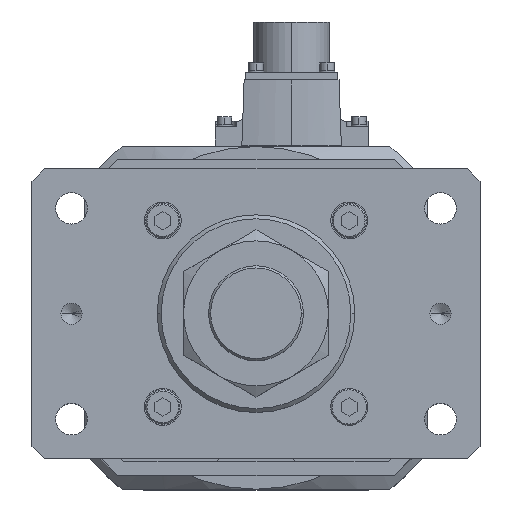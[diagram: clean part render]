
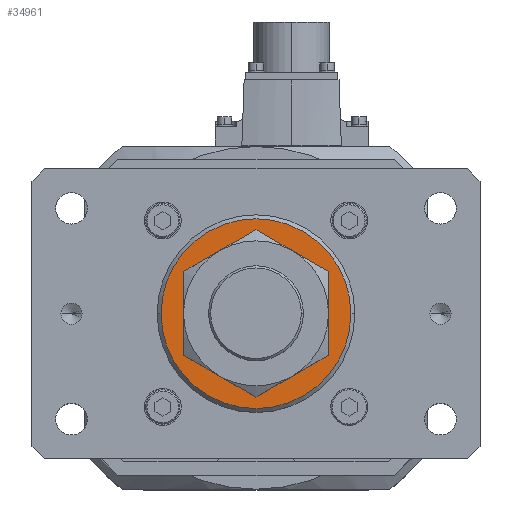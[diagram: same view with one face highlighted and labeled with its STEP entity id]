
A CAD part, top view. The second image highlights one B-rep face of the part: STEP entity #34961.
In plain terms, the highlighted planar face has unit normal (0, 0, 1).
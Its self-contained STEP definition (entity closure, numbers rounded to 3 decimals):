
#2283 = DIRECTION ( 'NONE',  ( 1., 0., 0. ) ) ;
#2626 = CIRCLE ( 'NONE', #30437, 23. ) ;
#4390 = VERTEX_POINT ( 'NONE', #5047 ) ;
#5047 = CARTESIAN_POINT ( 'NONE',  ( 36., 0., 646. ) ) ;
#5668 = PLANE ( 'NONE',  #16708 ) ;
#6539 = EDGE_LOOP ( 'NONE', ( #19214, #12630 ) ) ;
#6837 = CARTESIAN_POINT ( 'NONE',  ( 0., 0., 646. ) ) ;
#7600 = AXIS2_PLACEMENT_3D ( 'NONE', #8315, #14059, #33997 ) ;
#8024 = EDGE_CURVE ( 'NONE', #28383, #4390, #10300, .T. ) ;
#8165 = AXIS2_PLACEMENT_3D ( 'NONE', #6837, #27048, #26799 ) ;
#8291 = VERTEX_POINT ( 'NONE', #15523 ) ;
#8315 = CARTESIAN_POINT ( 'NONE',  ( 0., 0., 646. ) ) ;
#10300 = CIRCLE ( 'NONE', #7600, 36. ) ;
#10822 = CIRCLE ( 'NONE', #8165, 36. ) ;
#11154 = DIRECTION ( 'NONE',  ( 1., 0., 0. ) ) ;
#12630 = ORIENTED_EDGE ( 'NONE', *, *, #18117, .T. ) ;
#12806 = DIRECTION ( 'NONE',  ( 1., 0., 0. ) ) ;
#13345 = EDGE_LOOP ( 'NONE', ( #18572, #30141 ) ) ;
#13748 = CARTESIAN_POINT ( 'NONE',  ( 0., 0., 646. ) ) ;
#14059 = DIRECTION ( 'NONE',  ( 0., 0., 1. ) ) ;
#14480 = CARTESIAN_POINT ( 'NONE',  ( -36., 0., 646. ) ) ;
#14519 = FACE_BOUND ( 'NONE', #13345, .T. ) ;
#15302 = CARTESIAN_POINT ( 'NONE',  ( 0., 0., 646. ) ) ;
#15523 = CARTESIAN_POINT ( 'NONE',  ( -23., 0., 646. ) ) ;
#16708 = AXIS2_PLACEMENT_3D ( 'NONE', #31317, #36569, #11154 ) ;
#18117 = EDGE_CURVE ( 'NONE', #4390, #28383, #10822, .T. ) ;
#18572 = ORIENTED_EDGE ( 'NONE', *, *, #26923, .T. ) ;
#19214 = ORIENTED_EDGE ( 'NONE', *, *, #8024, .T. ) ;
#19471 = DIRECTION ( 'NONE',  ( 0., 0., -1. ) ) ;
#20673 = EDGE_CURVE ( 'NONE', #8291, #22089, #2626, .T. ) ;
#22089 = VERTEX_POINT ( 'NONE', #31883 ) ;
#26587 = FACE_OUTER_BOUND ( 'NONE', #6539, .T. ) ;
#26799 = DIRECTION ( 'NONE',  ( 1., 0., 0. ) ) ;
#26923 = EDGE_CURVE ( 'NONE', #22089, #8291, #34488, .T. ) ;
#27048 = DIRECTION ( 'NONE',  ( 0., 0., 1. ) ) ;
#28383 = VERTEX_POINT ( 'NONE', #14480 ) ;
#30141 = ORIENTED_EDGE ( 'NONE', *, *, #20673, .T. ) ;
#30437 = AXIS2_PLACEMENT_3D ( 'NONE', #15302, #32751, #12806 ) ;
#31317 = CARTESIAN_POINT ( 'NONE',  ( 0., 0., 646. ) ) ;
#31883 = CARTESIAN_POINT ( 'NONE',  ( 23., 0., 646. ) ) ;
#32751 = DIRECTION ( 'NONE',  ( 0., 0., -1. ) ) ;
#33997 = DIRECTION ( 'NONE',  ( 1., 0., 0. ) ) ;
#34488 = CIRCLE ( 'NONE', #34593, 23. ) ;
#34593 = AXIS2_PLACEMENT_3D ( 'NONE', #13748, #19471, #2283 ) ;
#34961 = ADVANCED_FACE ( 'NONE', ( #14519, #26587 ), #5668, .T. ) ;
#36569 = DIRECTION ( 'NONE',  ( 0., 0., 1. ) ) ;
